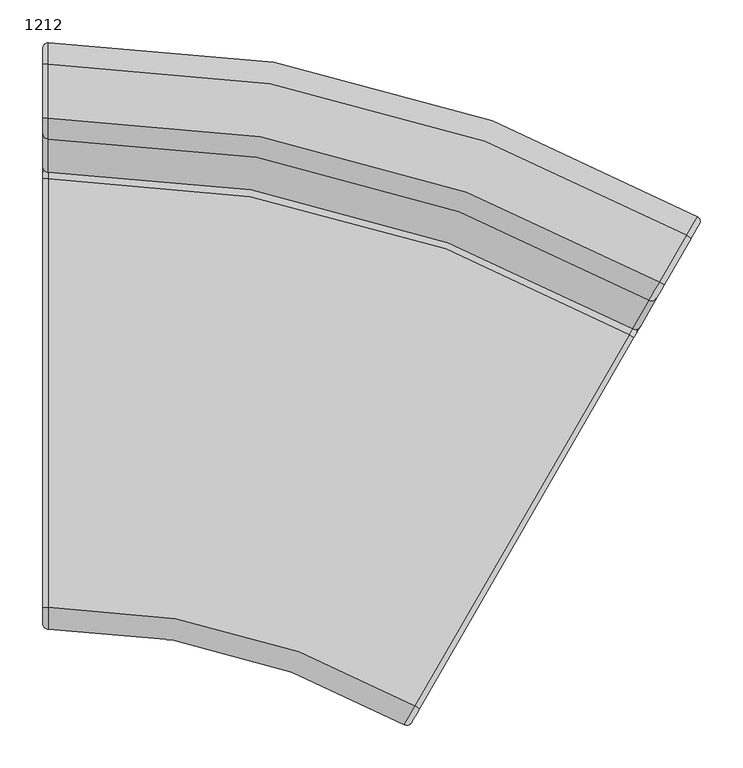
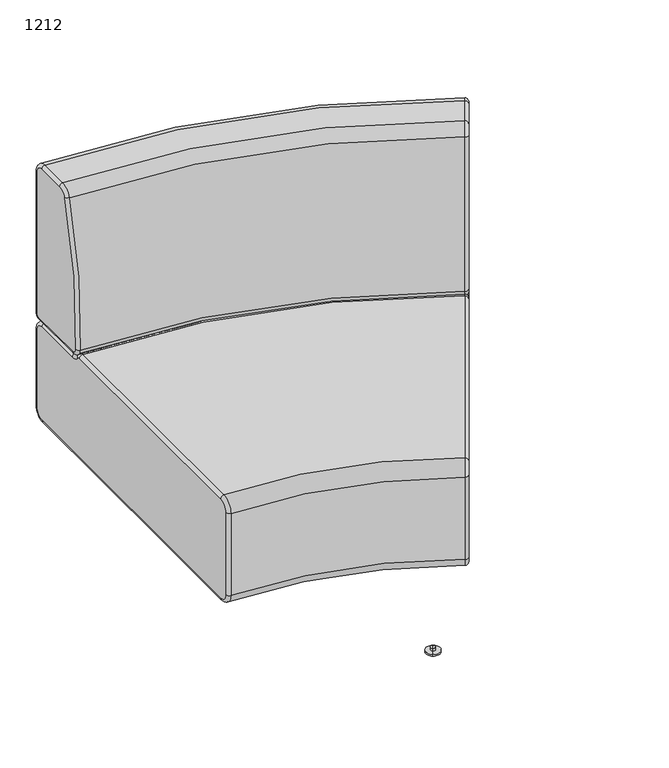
"""IFC4 building model written with IfcOpenShell, lengths in millimetres: furniture geometry, Laguna-Modular-Inside_Curve-ERG : 1212."""

from ifc_helpers import new_model, si_unit, point, frame, frame_2d, origin, place, context, project, spatial, polyline, circle_curve, ellipse_curve, trimmed, segment, composite_curve, outline, extrude, source, transform, mapped, element, save
from ifc_brep_helpers import plane_surface, cylinder_surface, revolved_surface, advanced_brep


def furniture_1212_c9eec584(model_context):
    return source(origin(), model_context, "Body", "SolidModel", [
        extrude(outline(composite_curve([segment(polyline([(-4404.7338738, 724.8009071), (-4456.4269302, 754.6459071)]), True, "CONTINUOUS"), segment(trimmed(circle_curve(frame_2d((-4453.8869302, 759.0453162)), 5.08), [point((-4456.4269302, 754.6459071))], [point((-4458.2863392, 761.5853162))], False, "CARTESIAN"), True, "CONTINUOUS"), segment(polyline([(-4458.2863392, 761.5853162), (-4438.6013392, 795.6807363)]), True, "CONTINUOUS"), segment(trimmed(circle_curve(frame_2d((-4434.2019302, 793.1407363)), 5.08), [point((-4438.6013392, 795.6807363))], [point((-4431.6619302, 797.5401454))], False, "CARTESIAN"), True, "CONTINUOUS"), segment(polyline([(-4431.6619302, 797.5401454), (-4379.9688738, 767.6951454)]), True, "CONTINUOUS"), segment(trimmed(circle_curve(frame_2d((-4382.5088738, 763.2957363)), 5.08), [point((-4379.9688738, 767.6951454))], [point((-4378.1094648, 760.7557363))], False, "CARTESIAN"), True, "CONTINUOUS"), segment(polyline([(-4378.1094648, 760.7557363), (-4397.7944648, 726.6603162)]), True, "CONTINUOUS"), segment(trimmed(circle_curve(frame_2d((-4402.1938738, 729.2003162)), 5.08), [point((-4397.7944648, 726.6603162))], [point((-4404.7338738, 724.8009071))], False, "CARTESIAN"), True, "CONTINUOUS")], self_intersect=False)), frame((0.0, 0.0, 200.66), z_axis=(0.0, 0.0, 1.0), x_axis=(1.0, 0.0, 0.0)), (0.0, 0.0, 1.0), 2.54),
        extrude(outline(composite_curve([segment(polyline([(-4133.7644856, 1194.1336548), (-4185.457542, 1223.9786548)]), True, "CONTINUOUS"), segment(trimmed(circle_curve(frame_2d((-4182.917542, 1228.3780638)), 5.08), [point((-4185.457542, 1223.9786548))], [point((-4187.316951, 1230.9180638))], False, "CARTESIAN"), True, "CONTINUOUS"), segment(polyline([(-4187.316951, 1230.9180638), (-4167.631951, 1265.013484)]), True, "CONTINUOUS"), segment(trimmed(circle_curve(frame_2d((-4163.232542, 1262.473484)), 5.08), [point((-4167.631951, 1265.013484))], [point((-4160.692542, 1266.872893))], False, "CARTESIAN"), True, "CONTINUOUS"), segment(polyline([(-4160.692542, 1266.872893), (-4108.9994856, 1237.027893)]), True, "CONTINUOUS"), segment(trimmed(circle_curve(frame_2d((-4111.5394856, 1232.628484)), 5.08), [point((-4108.9994856, 1237.027893))], [point((-4107.1400766, 1230.088484))], False, "CARTESIAN"), True, "CONTINUOUS"), segment(polyline([(-4107.1400766, 1230.088484), (-4126.8250766, 1195.9930638)]), True, "CONTINUOUS"), segment(trimmed(circle_curve(frame_2d((-4131.2244856, 1198.5330638)), 5.08), [point((-4126.8250766, 1195.9930638))], [point((-4133.7644856, 1194.1336548))], False, "CARTESIAN"), True, "CONTINUOUS")], self_intersect=False)), frame((0.0, 0.0, 200.66), z_axis=(0.0, 0.0, 1.0), x_axis=(1.0, 0.0, 0.0)), (0.0, 0.0, 1.0), 2.54),
        extrude(outline(composite_curve([segment(trimmed(circle_curve(frame_2d((-4739.5606322, 875.9836827)), 5.08), [point((-4739.5606322, 881.0636827))], [point((-4734.4806322, 875.9836827))], False, "CARTESIAN"), True, "CONTINUOUS"), segment(polyline([(-4734.4806322, 875.9836827), (-4734.4806322, 836.6136827)]), True, "CONTINUOUS"), segment(trimmed(circle_curve(frame_2d((-4739.5606322, 836.6136827)), 5.08), [point((-4734.4806322, 836.6136827))], [point((-4739.5606322, 831.5336827))], False, "CARTESIAN"), True, "CONTINUOUS"), segment(polyline([(-4739.5606322, 831.5336827), (-4799.2506322, 831.5336827)]), True, "CONTINUOUS"), segment(trimmed(circle_curve(frame_2d((-4799.2506322, 836.6136827)), 5.08), [point((-4799.2506322, 831.5336827))], [point((-4804.3306322, 836.6136827))], False, "CARTESIAN"), True, "CONTINUOUS"), segment(polyline([(-4804.3306322, 836.6136827), (-4804.3306322, 875.9836827)]), True, "CONTINUOUS"), segment(trimmed(circle_curve(frame_2d((-4799.2506322, 875.9836827)), 5.08), [point((-4804.3306322, 875.9836827))], [point((-4799.2506322, 881.0636827))], False, "CARTESIAN"), True, "CONTINUOUS"), segment(polyline([(-4799.2506322, 881.0636827), (-4739.5606322, 881.0636827)]), True, "CONTINUOUS")], self_intersect=False)), frame((0.0, 0.0, 200.66), z_axis=(0.0, 0.0, 1.0), x_axis=(1.0, 0.0, 0.0)), (0.0, 0.0, 1.0), 2.54),
        extrude(outline(composite_curve([segment(trimmed(circle_curve(frame_2d((-4739.5606322, 1416.9001303)), 5.08), [point((-4739.5606322, 1421.9801303))], [point((-4734.4806322, 1416.9001303))], False, "CARTESIAN"), True, "CONTINUOUS"), segment(polyline([(-4734.4806322, 1416.9001303), (-4734.4806322, 1377.5301303)]), True, "CONTINUOUS"), segment(trimmed(circle_curve(frame_2d((-4739.5606322, 1377.5301303)), 5.08), [point((-4734.4806322, 1377.5301303))], [point((-4739.5606322, 1372.4501303))], False, "CARTESIAN"), True, "CONTINUOUS"), segment(polyline([(-4739.5606322, 1372.4501303), (-4799.2506322, 1372.4501303)]), True, "CONTINUOUS"), segment(trimmed(circle_curve(frame_2d((-4799.2506322, 1377.5301303)), 5.08), [point((-4799.2506322, 1372.4501303))], [point((-4804.3306322, 1377.5301303))], False, "CARTESIAN"), True, "CONTINUOUS"), segment(polyline([(-4804.3306322, 1377.5301303), (-4804.3306322, 1416.9001303)]), True, "CONTINUOUS"), segment(trimmed(circle_curve(frame_2d((-4799.2506322, 1416.9001303)), 5.08), [point((-4804.3306322, 1416.9001303))], [point((-4799.2506322, 1421.9801303))], False, "CARTESIAN"), True, "CONTINUOUS"), segment(polyline([(-4799.2506322, 1421.9801303), (-4739.5606322, 1421.9801303)]), True, "CONTINUOUS")], self_intersect=False)), frame((0.0, 0.0, 200.66), z_axis=(0.0, 0.0, 1.0), x_axis=(1.0, 0.0, 0.0)), (0.0, 0.0, 1.0), 2.54),
        advanced_brep(
        [(-4832.9053779, 780.0986827, 228.6), (-4826.5553779, 773.7486827, 228.6), (-4826.5553779, 773.7486827, 406.4), (-4832.9053779, 780.0986827, 406.4), (-4832.9053779, 799.1486827, 425.45), (-4826.5553779, 799.1486827, 431.8), (-4826.5553779, 1301.2233489, 431.8), (-4832.9053779, 1301.2233489, 425.45), (-4826.5553779, 1312.6430873, 426.1507973), (-4832.9053779, 1307.5957246, 422.2976649), (-4826.5553779, 1326.8961182, 419.1), (-4832.9053779, 1326.8961182, 412.75), (-4826.5553779, 1435.2886296, 419.1), (-4832.9053779, 1435.2886296, 412.75), (-4826.5553779, 1460.6886296, 393.7), (-4832.9053779, 1454.3386296, 393.7), (-4826.5553779, 1460.6886296, 228.6), (-4832.9053779, 1454.3386296, 228.6), (-4826.5553779, 1435.2886296, 203.2), (-4832.9053779, 1435.2886296, 209.55), (-4826.5553779, 799.1486827, 203.2), (-4832.9053779, 799.1486827, 209.55), (-4145.731273, 1118.7970798, 431.8), (-4396.7686061, 683.9876643, 431.8), (-4140.0214037, 1128.6868634, 426.1507973), (-4132.8948883, 1141.0303502, 419.1), (-4078.6986404, 1234.9010052, 419.1), (-4065.9986326, 1256.8980639, 393.7), (-4065.9986326, 1256.8980639, 228.6000106), (-4078.6986326, 1234.9010186, 203.2), (-4396.7686061, 683.9876643, 203.2), (-4409.4686061, 661.990619, 406.4), (-4409.4686061, 661.990619, 228.6), (-4073.1993713, 1231.7260186, 209.55), (-4063.6743713, 1248.2238026, 228.6), (-4063.6743713, 1248.2238026, 393.7), (-4073.1993713, 1231.7260186, 412.75), (-4127.395627, 1137.8553502, 412.75), (-4137.0458238, 1121.140719, 422.2976649), (-4140.2320117, 1115.6220798, 425.45), (-4391.2693448, 680.8126643, 425.45), (-4400.7943448, 664.3148803, 406.4), (-4400.7943448, 664.3148803, 228.6), (-4391.2693448, 680.8126643, 209.55)],
        [
            (0, 1, circle_curve(frame((-4826.5553779, 780.0986827, 228.6), z_axis=(0.0, 0.0, 1.0), x_axis=(0.0, 1.0, 0.0)), 6.35)),
            (1, 2),
            (2, 3, circle_curve(frame((-4826.5553779, 780.0986827, 406.4), z_axis=(0.0, 0.0, -1.0), x_axis=(0.0, 1.0, 0.0)), 6.35)),
            (3, 0),
            (4, 5, circle_curve(frame((-4826.5553779, 799.1486827, 425.45), z_axis=(0.0, 1.0, 0.0), x_axis=(0.0, 0.0, -1.0)), 6.35)),
            (5, 6),
            (6, 7, circle_curve(frame((-4826.5553779, 1301.2233489, 425.45), z_axis=(0.0, -1.0, 0.0), x_axis=(0.0, 0.0, -1.0)), 6.35)),
            (7, 4),
            (6, 8, circle_curve(frame((-4826.5553779, 1301.2233489, 417.4330241), z_axis=(-1.0, 0.0, 0.0), x_axis=(0.0, 0.0, 1.0)), 14.3669759)),
            (8, 9, circle_curve(frame((-4826.5553779, 1307.5957246, 422.2976649), z_axis=(0.0, -0.6067924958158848, 0.7948602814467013), x_axis=(0.0, -0.7948602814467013, -0.6067924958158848)), 6.35)),
            (9, 7, circle_curve(frame((-4832.9053779, 1301.2233489, 417.4330241), z_axis=(1.0, 0.0, 0.0), x_axis=(0.0, 0.0, 1.0)), 8.0169759)),
            (8, 10, circle_curve(frame((-4826.5553779, 1326.8961182, 437.0314921), z_axis=(1.0, 0.0, 0.0), x_axis=(0.0, -0.7948602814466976, -0.6067924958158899)), 17.9314921)),
            (10, 11, circle_curve(frame((-4826.5553779, 1326.8961182, 412.75), z_axis=(0.0, -1.0, 0.0), x_axis=(0.0, 0.0, -1.0)), 6.35)),
            (11, 9, circle_curve(frame((-4832.9053779, 1326.8961182, 437.0314921), z_axis=(-1.0, 0.0, 0.0), x_axis=(0.0, -0.7948602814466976, -0.6067924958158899)), 24.2814921)),
            (10, 12),
            (12, 13, circle_curve(frame((-4826.5553779, 1435.2886296, 412.75), z_axis=(0.0, -1.0, 0.0), x_axis=(0.0, 0.0, -1.0)), 6.35)),
            (13, 11),
            (12, 14, circle_curve(frame((-4826.5553779, 1435.2886296, 393.7), z_axis=(-1.0, 0.0, 0.0), x_axis=(0.0, 0.0, 1.0)), 25.4)),
            (14, 15, circle_curve(frame((-4826.5553779, 1454.3386296, 393.7), z_axis=(0.0, 0.0, 1.0), x_axis=(0.0, -1.0, 0.0)), 6.35)),
            (15, 13, circle_curve(frame((-4832.9053779, 1435.2886296, 393.7), z_axis=(1.0, 0.0, 0.0), x_axis=(0.0, 0.0, 1.0)), 19.05)),
            (14, 16),
            (16, 17, circle_curve(frame((-4826.5553779, 1454.3386296, 228.6), z_axis=(0.0, 0.0, 1.0), x_axis=(0.0, -1.0, 0.0)), 6.35)),
            (17, 15),
            (16, 18, circle_curve(frame((-4826.5553779, 1435.2886296, 228.6), z_axis=(-1.0, 0.0, 0.0), x_axis=(0.0, 1.0, 0.0)), 25.4)),
            (18, 19, circle_curve(frame((-4826.5553779, 1435.2886296, 209.55), z_axis=(0.0, 1.0, 0.0), x_axis=(0.0, 0.0, 1.0)), 6.35)),
            (19, 17, circle_curve(frame((-4832.9053779, 1435.2886296, 228.6), z_axis=(1.0, 0.0, 0.0), x_axis=(0.0, 1.0, 0.0)), 19.05)),
            (18, 20),
            (20, 21, circle_curve(frame((-4826.5553779, 799.1486827, 209.55), z_axis=(0.0, 1.0, 0.0), x_axis=(0.0, 0.0, 1.0)), 6.35)),
            (21, 19),
            (2, 5, circle_curve(frame((-4826.5553779, 799.1486827, 406.4), z_axis=(-1.0, 0.0, 0.0), x_axis=(0.0, -1.0, 0.0)), 25.4)),
            (4, 3, circle_curve(frame((-4832.9053779, 799.1486827, 406.4), z_axis=(1.0, 0.0, 0.0), x_axis=(0.0, -1.0, 0.0)), 19.05)),
            (0, 21, circle_curve(frame((-4832.9053779, 799.1486827, 228.6), z_axis=(1.0, 0.0, 0.0), x_axis=(0.0, 0.0, -1.0)), 19.05)),
            (20, 1, circle_curve(frame((-4826.5553779, 799.1486827, 228.6), z_axis=(-1.0, 0.0, 0.0), x_axis=(0.0, 0.0, -1.0)), 25.4)),
            (22, 6, circle_curve(frame((-4826.5553779, -60.4248609, 431.8), z_axis=(0.0, 0.0, 1.0), x_axis=(0.0, 1.0, 0.0)), 1361.6482098)),
            (5, 23, circle_curve(frame((-4826.5553779, -60.4248609, 431.8), z_axis=(0.0, 0.0, -1.0), x_axis=(0.0, 1.0, 0.0)), 859.5735436)),
            (23, 22),
            (22, 24, circle_curve(frame((-4145.731273, 1118.7970798, 417.4330241), z_axis=(-0.866025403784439, 0.4999999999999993, 0.0), x_axis=(0.4999999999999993, 0.866025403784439, 0.0)), 14.3669759)),
            (24, 8, circle_curve(frame((-4826.5553779, -60.4248609, 426.1507973), z_axis=(0.0, 0.0, 1.0), x_axis=(0.0, 1.0, 0.0)), 1373.0679482)),
            (24, 25, circle_curve(frame((-4132.8948883, 1141.0303502, 437.0314921), z_axis=(0.866025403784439, -0.4999999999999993, 0.0), x_axis=(0.4999999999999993, 0.866025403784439, 0.0)), 17.9314921)),
            (25, 10, circle_curve(frame((-4826.5553779, -60.4248609, 419.1), z_axis=(0.0, 0.0, 1.0), x_axis=(0.0, 1.0, 0.0)), 1387.3209791)),
            (25, 26),
            (26, 12, circle_curve(frame((-4826.5553779, -60.4248609, 419.1), z_axis=(0.0, 0.0, 1.0), x_axis=(0.0, 1.0, 0.0)), 1495.7134905)),
            (26, 27, circle_curve(frame((-4078.6986326, 1234.9010186, 393.7), z_axis=(-0.866025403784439, 0.4999999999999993, 0.0), x_axis=(0.4999999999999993, 0.866025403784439, 0.0)), 25.4)),
            (27, 14, circle_curve(frame((-4826.5553779, -60.4248609, 393.7), z_axis=(0.0, 0.0, 1.0), x_axis=(0.0, 1.0, 0.0)), 1521.1134905)),
            (27, 28),
            (28, 16, circle_curve(frame((-4826.5553779, -60.4248609, 228.6), z_axis=(0.0, 0.0, 1.0), x_axis=(0.0, 1.0, 0.0)), 1521.1134905)),
            (28, 29, circle_curve(frame((-4078.6986326, 1234.9010186, 228.6), z_axis=(-0.866025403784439, 0.4999999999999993, 0.0), x_axis=(0.4999999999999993, 0.866025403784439, 0.0)), 25.4)),
            (29, 18, circle_curve(frame((-4826.5553779, -60.4248609, 203.2), z_axis=(0.0, 0.0, 1.0), x_axis=(0.0, 1.0, 0.0)), 1495.7134905)),
            (29, 30),
            (30, 20, circle_curve(frame((-4826.5553779, -60.4248609, 203.2), z_axis=(0.0, 0.0, 1.0), x_axis=(0.0, 1.0, 0.0)), 859.5735436)),
            (31, 2, circle_curve(frame((-4826.5553779, -60.4248609, 406.4), z_axis=(0.0, 0.0, 1.0), x_axis=(0.0, 1.0, 0.0)), 834.1735436)),
            (1, 32, circle_curve(frame((-4826.5553779, -60.4248609, 228.6), z_axis=(0.0, 0.0, -1.0), x_axis=(0.0, 1.0, 0.0)), 834.1735436)),
            (32, 31),
            (31, 23, circle_curve(frame((-4396.7686061, 683.9876643, 406.4), z_axis=(-0.8660254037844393, 0.49999999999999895, 0.0), x_axis=(0.49999999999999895, 0.8660254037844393, 0.0)), 25.4)),
            (30, 32, circle_curve(frame((-4396.7686061, 683.9876643, 228.6), z_axis=(-0.8660254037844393, 0.49999999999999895, 0.0), x_axis=(0.49999999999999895, 0.8660254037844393, 0.0)), 25.4)),
            (33, 29, circle_curve(frame((-4078.6986326, 1234.9010186, 209.55), z_axis=(0.4999999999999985, 0.8660254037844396, 0.0), x_axis=(0.0, 0.0, 1.0)), 6.35)),
            (28, 34, circle_curve(frame((-4069.1736326, 1251.3988026, 228.6), z_axis=(0.0, 0.0, -1.0), x_axis=(-0.49999999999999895, -0.8660254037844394, 0.0)), 6.35)),
            (34, 33, circle_curve(frame((-4073.1993713, 1231.7260186, 228.6), z_axis=(-0.8660254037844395, 0.49999999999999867, 0.0), x_axis=(0.0, 0.0, -1.0)), 19.05)),
            (27, 35, circle_curve(frame((-4069.1736326, 1251.3988026, 393.7), z_axis=(0.0, 0.0, -1.0), x_axis=(-0.49999999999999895, -0.8660254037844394, 0.0)), 6.35)),
            (35, 34),
            (26, 36, circle_curve(frame((-4078.6986326, 1234.9010186, 412.75), z_axis=(0.4999999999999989, 0.8660254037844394, 0.0), x_axis=(0.0, 0.0, -1.0)), 6.35)),
            (36, 35, circle_curve(frame((-4073.1993713, 1231.7260186, 393.7), z_axis=(-0.8660254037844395, 0.49999999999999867, 0.0), x_axis=(0.49999999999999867, 0.8660254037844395, 0.0)), 19.05)),
            (25, 37, circle_curve(frame((-4132.8948883, 1141.0303502, 412.75), z_axis=(0.4999999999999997, 0.8660254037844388, 0.0), x_axis=(0.0, 0.0, -1.0)), 6.35)),
            (37, 36),
            (24, 38, circle_curve(frame((-4142.5450851, 1124.315719, 422.2976649), z_axis=(0.30339624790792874, 0.5254977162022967, -0.7948602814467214), x_axis=(-0.3974301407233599, -0.68836919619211, -0.6067924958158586)), 6.35)),
            (38, 37, circle_curve(frame((-4127.395627, 1137.8553502, 437.0314921), z_axis=(0.8660254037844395, -0.49999999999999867, 0.0), x_axis=(0.0, 0.0, -1.0)), 24.2814921)),
            (22, 39, circle_curve(frame((-4145.731273, 1118.7970798, 425.45), z_axis=(0.4999999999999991, 0.8660254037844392, 0.0), x_axis=(0.0, 0.0, -1.0)), 6.35)),
            (39, 38, circle_curve(frame((-4140.2320117, 1115.6220798, 417.4330241), z_axis=(-0.8660254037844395, 0.49999999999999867, 0.0), x_axis=(0.3974301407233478, 0.6883691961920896, 0.6067924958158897)), 8.0169759)),
            (23, 40, circle_curve(frame((-4396.7686061, 683.9876643, 425.45), z_axis=(0.49999999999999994, 0.8660254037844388, 0.0), x_axis=(0.0, 0.0, -1.0)), 6.35)),
            (40, 39),
            (41, 31, circle_curve(frame((-4406.2936061, 667.4898803, 406.4), z_axis=(0.0, 0.0, -1.0), x_axis=(0.49999999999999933, 0.8660254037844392, 0.0)), 6.35)),
            (32, 42, circle_curve(frame((-4406.2936061, 667.4898803, 228.6), z_axis=(0.0, 0.0, 1.0), x_axis=(0.49999999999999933, 0.8660254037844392, 0.0)), 6.35)),
            (42, 41),
            (33, 43),
            (43, 30, circle_curve(frame((-4396.7686061, 683.9876643, 209.55), z_axis=(0.49999999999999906, 0.8660254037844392, 0.0), x_axis=(0.0, 0.0, 1.0)), 6.35)),
            (41, 40, circle_curve(frame((-4391.2693448, 680.8126643, 406.4), z_axis=(-0.866025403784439, 0.4999999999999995, 0.0), x_axis=(0.0, 0.0, 1.0)), 19.05)),
            (43, 42, circle_curve(frame((-4391.2693448, 680.8126643, 228.6), z_axis=(-0.866025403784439, 0.4999999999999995, 0.0), x_axis=(-0.4999999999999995, -0.866025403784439, 0.0)), 19.05)),
        ],
        [
            cylinder_surface(frame((-4826.5553779, 780.0986827, 228.6), z_axis=(0.0, 0.0, -1.0), x_axis=(0.0, 1.0, 0.0)), 6.35),
            cylinder_surface(frame((-4826.5553779, 799.1486827, 425.45), z_axis=(0.0, -1.0, 0.0), x_axis=(0.0, 0.0, -1.0)), 6.35),
            revolved_surface(trimmed(ellipse_curve(frame((-4826.5553779, 1301.2233489, 425.45), z_axis=(0.0, -1.0, 0.0), x_axis=(0.0, 0.0, -1.0)), 6.35, 6.35), [point((-4826.5553779, 1301.2233489, 431.8))], [point((-4832.9053779, 1301.2233489, 425.45))], True, "CARTESIAN"), (-4826.5553779, 1301.2233489, 417.4330241), (-1.0, 0.0, 0.0)),
            revolved_surface(trimmed(ellipse_curve(frame((-4826.5553779, 1307.5957246, 422.2976649), z_axis=(0.0, -0.6067924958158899, 0.7948602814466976), x_axis=(0.0, -0.7948602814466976, -0.6067924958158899)), 6.35, 6.35), [point((-4826.5553779, 1312.6430873, 426.1507973))], [point((-4832.9053779, 1307.5957246, 422.2976649))], True, "CARTESIAN"), (-4826.5553779, 1326.8961182, 437.0314921), (1.0, 0.0, 0.0)),
            cylinder_surface(frame((-4826.5553779, 1326.8961182, 412.75), z_axis=(0.0, -1.0, 0.0), x_axis=(0.0, 0.0, -1.0)), 6.35),
            revolved_surface(trimmed(ellipse_curve(frame((-4826.5553779, 1435.2886296, 412.75), z_axis=(0.0, -1.0, 0.0), x_axis=(0.0, 0.0, -1.0)), 6.35, 6.35), [point((-4826.5553779, 1435.2886296, 419.1))], [point((-4832.9053779, 1435.2886296, 412.75))], True, "CARTESIAN"), (-4826.5553779, 1435.2886296, 393.7), (-1.0, 0.0, 0.0)),
            cylinder_surface(frame((-4826.5553779, 1454.3386296, 393.7), z_axis=(0.0, 0.0, 1.0), x_axis=(0.0, -1.0, 0.0)), 6.35),
            revolved_surface(trimmed(ellipse_curve(frame((-4826.5553779, 1454.3386296, 228.6), z_axis=(0.0, 0.0, 1.0), x_axis=(0.0, -1.0, 0.0)), 6.35, 6.35), [point((-4826.5553779, 1460.6886296, 228.6))], [point((-4832.9053779, 1454.3386296, 228.6))], True, "CARTESIAN"), (-4826.5553779, 1435.2886296, 228.6), (-1.0, 0.0, 0.0)),
            cylinder_surface(frame((-4826.5553779, 1435.2886296, 209.55), z_axis=(0.0, 1.0, 0.0), x_axis=(0.0, 0.0, 1.0)), 6.35),
            revolved_surface(trimmed(ellipse_curve(frame((-4826.5553779, 780.0986827, 406.4), z_axis=(0.0, 0.0, -1.0), x_axis=(0.0, 1.0, 0.0)), 6.35, 6.35), [point((-4826.5553779, 773.7486827, 406.4))], [point((-4832.9053779, 780.0986827, 406.4))], True, "CARTESIAN"), (-4826.5553779, 799.1486827, 406.4), (-1.0, 0.0, 0.0)),
            revolved_surface(trimmed(ellipse_curve(frame((-4826.5553779, 799.1486827, 209.55), z_axis=(0.0, 1.0, 0.0), x_axis=(0.0, 0.0, 1.0)), 6.35, 6.35), [point((-4826.5553779, 799.1486827, 203.2))], [point((-4832.9053779, 799.1486827, 209.55))], True, "CARTESIAN"), (-4826.5553779, 799.1486827, 228.6), (-1.0, 0.0, 0.0)),
            plane_surface(frame((-4832.9053779, 1454.3386296, 228.6), z_axis=(-1.0, 0.0, 0.0), x_axis=(0.0, 0.0, -1.0))),
            plane_surface(frame((-4826.5553779, -60.4248609, 431.8), z_axis=(0.0, 0.0, 1.0), x_axis=(0.0, 1.0, 0.0))),
            revolved_surface(trimmed(ellipse_curve(frame((-4826.5553779, 1301.2233489, 417.4330241), z_axis=(-1.0, 0.0, 0.0), x_axis=(0.0, 1.0, 0.0)), 14.3669759, 14.3669759), [point((-4826.5553779, 1301.2233489, 431.8))], [point((-4826.5553779, 1312.6430873, 426.1507973))], True, "CARTESIAN"), (-4826.5553779, -60.4248609, 0.0), (0.0, 0.0, -1.0)),
            revolved_surface(trimmed(ellipse_curve(frame((-4826.5553779, 1326.8961182, 437.0314921), z_axis=(1.0, 0.0, 0.0), x_axis=(0.0, 1.0, 0.0)), 17.9314921, 17.9314921), [point((-4826.5553779, 1312.6430873, 426.1507973))], [point((-4826.5553779, 1326.8961182, 419.1))], True, "CARTESIAN"), (-4826.5553779, -60.4248609, 0.0), (0.0, 0.0, -1.0)),
            plane_surface(frame((-4826.5553779, -60.4248609, 419.1), z_axis=(0.0, 0.0, 1.0), x_axis=(0.0, 1.0, 0.0))),
            revolved_surface(trimmed(ellipse_curve(frame((-4826.5553779, 1435.2886296, 393.7), z_axis=(-1.0, 0.0, 0.0), x_axis=(0.0, 1.0, 0.0)), 25.4, 25.4), [point((-4826.5553779, 1435.2886296, 419.1))], [point((-4826.5553779, 1460.6886296, 393.7))], True, "CARTESIAN"), (-4826.5553779, -60.4248609, 0.0), (0.0, 0.0, -1.0)),
            cylinder_surface(frame((-4826.5553779, -60.4248609, 0.0), z_axis=(0.0, 0.0, -1.0), x_axis=(0.0, 1.0, 0.0)), 1521.1134905),
            revolved_surface(trimmed(ellipse_curve(frame((-4826.5553779, 1435.2886296, 228.6), z_axis=(-1.0, 0.0, 0.0), x_axis=(0.0, 1.0, 0.0)), 25.4, 25.4), [point((-4826.5553779, 1460.6886296, 228.6))], [point((-4826.5553779, 1435.2886296, 203.2))], True, "CARTESIAN"), (-4826.5553779, -60.4248609, 0.0), (0.0, 0.0, -1.0)),
            plane_surface(frame((-4826.5553779, -60.4248609, 203.2), z_axis=(0.0, 0.0, -1.0), x_axis=(0.0, 1.0, 0.0))),
            revolved_surface(polyline([(-4826.5553779, 773.7486827, 228.6), (-4826.5553779, 773.7486827, 406.4)]), (-4826.5553779, -60.4248609, 0.0), (0.0, 0.0, -1.0)),
            revolved_surface(trimmed(ellipse_curve(frame((-4826.5553779, 799.1486827, 406.4), z_axis=(-1.0, 0.0, 0.0), x_axis=(0.0, 1.0, 0.0)), 25.4, 25.4), [point((-4826.5553779, 773.7486827, 406.4))], [point((-4826.5553779, 799.1486827, 431.8))], True, "CARTESIAN"), (-4826.5553779, -60.4248609, 0.0), (0.0, 0.0, -1.0)),
            revolved_surface(trimmed(ellipse_curve(frame((-4826.5553779, 799.1486827, 228.6), z_axis=(-1.0, 0.0, 0.0), x_axis=(0.0, 1.0, 0.0)), 25.4, 25.4), [point((-4826.5553779, 799.1486827, 203.2))], [point((-4826.5553779, 773.7486827, 228.6))], True, "CARTESIAN"), (-4826.5553779, -60.4248609, 0.0), (0.0, 0.0, -1.0)),
            revolved_surface(trimmed(ellipse_curve(frame((-4078.6986326, 1234.9010186, 209.55), z_axis=(-0.4999999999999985, -0.8660254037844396, 0.0), x_axis=(0.0, 0.0, 1.0)), 6.35, 6.35), [point((-4078.6986326, 1234.9010186, 203.2))], [point((-4073.1993713, 1231.7260186, 209.55))], True, "CARTESIAN"), (-4078.6986326, 1234.9010186, 228.6), (0.8660254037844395, -0.49999999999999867, 0.0)),
            cylinder_surface(frame((-4069.1736326, 1251.3988026, 228.6), z_axis=(0.0, 0.0, -1.0), x_axis=(-0.49999999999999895, -0.8660254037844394, 0.0)), 6.35),
            revolved_surface(trimmed(ellipse_curve(frame((-4069.1736326, 1251.3988026, 393.7), z_axis=(0.0, 0.0, -1.0), x_axis=(-0.49999999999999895, -0.8660254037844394, 0.0)), 6.35, 6.35), [point((-4065.9986326, 1256.8980639, 393.7))], [point((-4063.6743713, 1248.2238026, 393.7))], True, "CARTESIAN"), (-4078.6986326, 1234.9010186, 393.7), (0.8660254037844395, -0.49999999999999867, 0.0)),
            cylinder_surface(frame((-4078.6986326, 1234.9010186, 412.75), z_axis=(0.4999999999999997, 0.8660254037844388, 0.0), x_axis=(0.0, 0.0, -1.0)), 6.35),
            revolved_surface(trimmed(ellipse_curve(frame((-4132.8948883, 1141.0303502, 412.75), z_axis=(0.49999999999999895, 0.8660254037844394, 0.0), x_axis=(0.0, 0.0, -1.0)), 6.35, 6.35), [point((-4132.8948883, 1141.0303502, 419.1))], [point((-4127.395627, 1137.8553502, 412.75))], True, "CARTESIAN"), (-4132.8948883, 1141.0303502, 437.0314921), (-0.8660254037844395, 0.49999999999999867, 0.0)),
            revolved_surface(trimmed(ellipse_curve(frame((-4142.5450851, 1124.315719, 422.2976649), z_axis=(0.3033962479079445, 0.5254977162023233, -0.7948602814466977), x_axis=(-0.39743014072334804, -0.6883691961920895, -0.6067924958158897)), 6.35, 6.35), [point((-4140.0214037, 1128.6868634, 426.1507973))], [point((-4137.0458238, 1121.140719, 422.2976649))], True, "CARTESIAN"), (-4145.731273, 1118.7970798, 417.4330241), (0.8660254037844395, -0.49999999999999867, 0.0)),
            cylinder_surface(frame((-4145.731273, 1118.7970798, 425.45), z_axis=(0.49999999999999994, 0.8660254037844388, 0.0), x_axis=(0.0, 0.0, -1.0)), 6.35),
            cylinder_surface(frame((-4406.2936061, 667.4898803, 406.4), z_axis=(0.0, 0.0, 1.0000000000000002), x_axis=(0.49999999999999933, 0.8660254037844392, 0.0)), 6.35),
            cylinder_surface(frame((-4396.7686061, 683.9876643, 209.55), z_axis=(-0.49999999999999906, -0.8660254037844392, 0.0), x_axis=(0.0, 0.0, 1.0)), 6.35),
            revolved_surface(trimmed(ellipse_curve(frame((-4396.7686061, 683.9876643, 425.45), z_axis=(0.49999999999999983, 0.8660254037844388, 0.0), x_axis=(0.0, 0.0, -1.0)), 6.35, 6.35), [point((-4396.7686061, 683.9876643, 431.8))], [point((-4391.2693448, 680.8126643, 425.45))], True, "CARTESIAN"), (-4396.7686061, 683.9876643, 406.4), (0.866025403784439, -0.4999999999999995, 0.0)),
            revolved_surface(trimmed(ellipse_curve(frame((-4406.2936061, 667.4898803, 228.6), z_axis=(0.0, 0.0, 1.0000000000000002), x_axis=(0.49999999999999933, 0.8660254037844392, 0.0)), 6.35, 6.35), [point((-4409.4686061, 661.990619, 228.6))], [point((-4400.7943448, 664.3148803, 228.6))], True, "CARTESIAN"), (-4396.7686061, 683.9876643, 228.6), (0.866025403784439, -0.4999999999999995, 0.0)),
            plane_surface(frame((-4391.2693448, 680.8126643, 425.45), z_axis=(0.8660254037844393, -0.49999999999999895, 0.0), x_axis=(-0.49999999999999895, -0.8660254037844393, 0.0))),
        ],
        [
            (0, [[1, 2, 3, 4]]),
            (1, [[5, 6, 7, 8]]),
            (2, [[-7, 9, 10, 11]]),
            (3, [[-10, 12, 13, 14]]),
            (4, [[-13, 15, 16, 17]]),
            (5, [[-16, 18, 19, 20]]),
            (6, [[-19, 21, 22, 23]]),
            (7, [[-22, 24, 25, 26]]),
            (8, [[-25, 27, 28, 29]]),
            (9, [[-3, 30, -5, 31]]),
            (10, [[-1, 32, -28, 33]]),
            (11, [[-4, -31, -8, -11, -14, -17, -20, -23, -26, -29, -32]]),
            (12, [[34, -6, 35, 36]]),
            (13, [[-34, 37, 38, -9]]),
            (14, [[-38, 39, 40, -12]]),
            (15, [[-40, 41, 42, -15]]),
            (16, [[-42, 43, 44, -18]]),
            (17, [[-44, 45, 46, -21]]),
            (18, [[-46, 47, 48, -24]]),
            (19, [[-48, 49, 50, -27]]),
            (20, [[51, -2, 52, 53]]),
            (21, [[-35, -30, -51, 54]]),
            (22, [[-50, 55, -52, -33]]),
            (23, [[56, -47, 57, 58]]),
            (24, [[-57, -45, 59, 60]]),
            (25, [[-59, -43, 61, 62]]),
            (26, [[-61, -41, 63, 64]]),
            (27, [[-63, -39, 65, 66]]),
            (28, [[-65, -37, 67, 68]]),
            (29, [[-67, -36, 69, 70]]),
            (30, [[71, -53, 72, 73]]),
            (31, [[-56, 74, 75, -49]]),
            (32, [[-69, -54, -71, 76]]),
            (33, [[-72, -55, -75, 77]]),
            (34, [[-58, -60, -62, -64, -66, -68, -70, -76, -73, -77, -74]]),
        ],
    ),
        advanced_brep(
        [(-4104.8351099, 1176.931312, 755.65), (-4110.3343712, 1180.106312, 762.0), (-4122.4220734, 1159.1697977, 744.3916508), (-4113.9008866, 1161.2289263, 742.4437381), (-4141.8438233, 1125.5303402, 435.9339217), (-4133.1755152, 1127.8442902, 436.3225994), (-4132.8948883, 1141.0303502, 419.1), (-4127.395627, 1137.8553502, 425.45), (-4072.3486326, 1245.8995413, 419.1), (-4066.8493713, 1242.7245413, 425.45), (-4065.9986326, 1256.8980639, 431.8), (-4063.6743713, 1248.2238026, 431.8), (-4065.9986326, 1256.8980639, 736.6), (-4063.6743713, 1248.2238026, 736.6), (-4078.6986326, 1234.9010186, 762.0), (-4073.1993713, 1231.7260186, 755.65), (-4826.5553779, 1372.0171524, 762.0), (-4826.5553779, 1347.841748, 744.3916508), (-4826.5553779, 1435.2886296, 762.0), (-4826.5553779, 1460.6886296, 736.6), (-4826.5553779, 1460.6886296, 431.8), (-4826.5553779, 1447.9886296, 419.1), (-4826.5553779, 1326.8961182, 419.1), (-4826.5553779, 1308.9982483, 435.9339217), (-4832.9053779, 1454.3386296, 431.8), (-4832.9053779, 1447.9886296, 425.45), (-4832.9053779, 1326.8961182, 425.45), (-4832.9053779, 1315.3363418, 436.3225994), (-4832.9053779, 1353.8855991, 742.4437381), (-4832.9053779, 1372.0171524, 755.65), (-4832.9053779, 1435.2886296, 755.65), (-4832.9053779, 1454.3386296, 736.6)],
        [
            (0, 1, circle_curve(frame((-4110.3343712, 1180.106312, 755.65), z_axis=(-0.5000000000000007, -0.8660254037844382, 0.0), x_axis=(0.0, 0.0, -1.0)), 6.35)),
            (1, 2, circle_curve(frame((-4110.3343712, 1180.106312, 736.6), z_axis=(0.8660254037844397, -0.49999999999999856, 0.0), x_axis=(0.0, 0.0, 1.0)), 25.4)),
            (2, 3, circle_curve(frame((-4119.4001479, 1164.4039263, 742.4437381), z_axis=(0.15337895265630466, 0.265660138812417, 0.9517875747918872), x_axis=(0.47589378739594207, 0.8242722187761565, -0.30675790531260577)), 6.35)),
            (3, 0, circle_curve(frame((-4104.8351099, 1176.931312, 736.6), z_axis=(-0.8660254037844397, 0.49999999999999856, 0.0), x_axis=(0.0, 0.0, 1.0)), 19.05)),
            (2, 4, circle_curve(frame((-3723.4919648, 1850.1370144, 487.2440105), z_axis=(0.8660254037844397, -0.49999999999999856, 0.0), x_axis=(-0.47589378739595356, -0.8242722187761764, 0.306757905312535)), 838.2755126)),
            (4, 5, circle_curve(frame((-4138.6747765, 1131.0192902, 436.3225994), z_axis=(-0.030604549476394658, -0.05300863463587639, 0.9981249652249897), x_axis=(0.49906248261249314, 0.8644015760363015, 0.06120909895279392)), 6.35)),
            (5, 3, circle_curve(frame((-3717.9927035, 1846.9620144, 487.2440105), z_axis=(-0.8660254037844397, 0.49999999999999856, 0.0), x_axis=(-0.47589378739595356, -0.8242722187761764, 0.306757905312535)), 831.9255126)),
            (4, 6, circle_curve(frame((-4132.8948883, 1141.0303502, 437.0314921), z_axis=(0.8660254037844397, -0.49999999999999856, 0.0), x_axis=(-0.4990624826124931, -0.864401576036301, -0.06120909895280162)), 17.9314921)),
            (6, 7, circle_curve(frame((-4132.8948883, 1141.0303502, 425.45), z_axis=(-0.49999999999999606, -0.8660254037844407, 0.0), x_axis=(0.0, 0.0, 0.9999999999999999)), 6.35)),
            (7, 5, circle_curve(frame((-4127.395627, 1137.8553502, 437.0314921), z_axis=(-0.8660254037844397, 0.49999999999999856, 0.0), x_axis=(-0.4990624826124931, -0.864401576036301, -0.06120909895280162)), 11.5814921)),
            (6, 8),
            (8, 9, circle_curve(frame((-4072.3486326, 1245.8995413, 425.45), z_axis=(-0.49999999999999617, -0.8660254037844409, 0.0), x_axis=(0.0, 0.0, 1.0)), 6.35)),
            (9, 7),
            (8, 10, circle_curve(frame((-4072.3486326, 1245.8995413, 431.8), z_axis=(0.8660254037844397, -0.49999999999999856, 0.0), x_axis=(0.0, 0.0, -1.0)), 12.7)),
            (10, 11, circle_curve(frame((-4069.1736326, 1251.3988026, 431.8), z_axis=(0.0, 0.0, -1.0), x_axis=(-0.49999999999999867, -0.8660254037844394, 0.0)), 6.35)),
            (11, 9, circle_curve(frame((-4066.8493713, 1242.7245413, 431.8), z_axis=(-0.8660254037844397, 0.49999999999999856, 0.0), x_axis=(0.0, 0.0, -1.0)), 6.35)),
            (10, 12),
            (12, 13, circle_curve(frame((-4069.1736326, 1251.3988026, 736.6), z_axis=(0.0, 0.0, -1.0), x_axis=(-0.49999999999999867, -0.8660254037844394, 0.0)), 6.35)),
            (13, 11),
            (12, 14, circle_curve(frame((-4078.6986326, 1234.9010186, 736.6), z_axis=(0.8660254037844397, -0.49999999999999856, 0.0), x_axis=(0.49999999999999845, 0.8660254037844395, 0.0)), 25.4)),
            (14, 15, circle_curve(frame((-4078.6986326, 1234.9010186, 755.65), z_axis=(0.5000000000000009, 0.8660254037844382, 0.0), x_axis=(0.0, 0.0, -0.9999999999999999)), 6.35)),
            (15, 13, circle_curve(frame((-4073.1993713, 1231.7260186, 736.6), z_axis=(-0.8660254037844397, 0.49999999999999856, 0.0), x_axis=(0.49999999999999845, 0.8660254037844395, 0.0)), 19.05)),
            (0, 15),
            (14, 1),
            (1, 16, circle_curve(frame((-4826.5553779, -60.4248609, 762.0), z_axis=(0.0, 0.0, 1.0), x_axis=(0.0, 1.0, 0.0)), 1432.4420133)),
            (16, 17, circle_curve(frame((-4826.5553779, 1372.0171524, 736.6), z_axis=(1.0, 0.0, 0.0), x_axis=(0.0, 1.0, 0.0)), 25.4)),
            (17, 2, circle_curve(frame((-4826.5553779, -60.4248609, 744.3916508), z_axis=(0.0, 0.0, -1.0), x_axis=(0.0, 1.0, 0.0)), 1408.2666089)),
            (14, 18, circle_curve(frame((-4826.5553779, -60.4248609, 762.0), z_axis=(0.0, 0.0, 1.0), x_axis=(0.0, 1.0, 0.0)), 1495.7134905)),
            (18, 16),
            (12, 19, circle_curve(frame((-4826.5553779, -60.4248609, 736.6), z_axis=(0.0, 0.0, 1.0), x_axis=(0.0, 1.0, 0.0)), 1521.1134905)),
            (19, 18, circle_curve(frame((-4826.5553779, 1435.2886296, 736.6), z_axis=(1.0, 0.0, 0.0), x_axis=(0.0, 1.0, 0.0)), 25.4)),
            (10, 20, circle_curve(frame((-4826.5553779, -60.4248609, 431.8), z_axis=(0.0, 0.0, 1.0), x_axis=(0.0, 1.0, 0.0)), 1521.1134905)),
            (20, 19),
            (8, 21, circle_curve(frame((-4826.5553779, -60.4248609, 419.1), z_axis=(0.0, 0.0, 1.0), x_axis=(0.0, 1.0, 0.0)), 1508.4134905)),
            (21, 20, circle_curve(frame((-4826.5553779, 1447.9886296, 431.8), z_axis=(1.0, 0.0, 0.0), x_axis=(0.0, 1.0, 0.0)), 12.7)),
            (6, 22, circle_curve(frame((-4826.5553779, -60.4248609, 419.1), z_axis=(0.0, 0.0, 1.0), x_axis=(0.0, 1.0, 0.0)), 1387.3209791)),
            (22, 21),
            (4, 23, circle_curve(frame((-4826.5553779, -60.4248609, 435.9339217), z_axis=(0.0, 0.0, 1.0), x_axis=(0.0, 1.0, 0.0)), 1369.4231092)),
            (23, 22, circle_curve(frame((-4826.5553779, 1326.8961182, 437.0314921), z_axis=(1.0, 0.0, 0.0), x_axis=(0.0, 1.0, 0.0)), 17.9314921)),
            (17, 23, circle_curve(frame((-4826.5553779, 2145.7019651, 487.2440105), z_axis=(1.0, 0.0, 0.0), x_axis=(0.0, 1.0, 0.0)), 838.2755126)),
            (24, 20, circle_curve(frame((-4826.5553779, 1454.3386296, 431.8), z_axis=(0.0, 0.0, -1.0), x_axis=(-1.0, 0.0, 0.0)), 6.35)),
            (21, 25, circle_curve(frame((-4826.5553779, 1447.9886296, 425.45), z_axis=(0.0, 1.0, 0.0), x_axis=(-1.0, 0.0, 0.0)), 6.35)),
            (25, 24, circle_curve(frame((-4832.9053779, 1447.9886296, 431.8), z_axis=(1.0, 0.0, 0.0), x_axis=(0.0, 1.0, 0.0)), 6.35)),
            (22, 26, circle_curve(frame((-4826.5553779, 1326.8961182, 425.45), z_axis=(0.0, 1.0, 0.0), x_axis=(-1.0, 0.0, 0.0)), 6.35)),
            (26, 25),
            (23, 27, circle_curve(frame((-4826.5553779, 1315.3363418, 436.3225994), z_axis=(0.0, 0.06120909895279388, -0.9981249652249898), x_axis=(-1.0, 0.0, 0.0)), 6.35)),
            (27, 26, circle_curve(frame((-4832.9053779, 1326.8961182, 437.0314921), z_axis=(1.0, 0.0, 0.0), x_axis=(0.0, 0.0, -1.0)), 11.5814921)),
            (17, 28, circle_curve(frame((-4826.5553779, 1353.8855991, 742.4437381), z_axis=(0.0, -0.306757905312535, -0.9517875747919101), x_axis=(-1.0, 0.0, 0.0)), 6.35)),
            (28, 27, circle_curve(frame((-4832.9053779, 2145.7019651, 487.2440105), z_axis=(1.0, 0.0, 0.0), x_axis=(0.0, -0.9981249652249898, -0.06120909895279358)), 831.9255126)),
            (16, 29, circle_curve(frame((-4826.5553779, 1372.0171524, 755.65), z_axis=(0.0, -1.0, 0.0), x_axis=(-1.0, 0.0, 0.0)), 6.35)),
            (29, 28, circle_curve(frame((-4832.9053779, 1372.0171524, 736.6), z_axis=(1.0, 0.0, 0.0), x_axis=(0.0, -0.95178757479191, 0.3067579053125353)), 19.05)),
            (18, 30, circle_curve(frame((-4826.5553779, 1435.2886296, 755.65), z_axis=(0.0, -1.0, 0.0), x_axis=(-1.0, 0.0, 0.0)), 6.35)),
            (30, 29),
            (19, 31, circle_curve(frame((-4826.5553779, 1454.3386296, 736.6), z_axis=(0.0, 0.0, 1.0), x_axis=(-1.0, 0.0, 0.0)), 6.35)),
            (31, 30, circle_curve(frame((-4832.9053779, 1435.2886296, 736.6), z_axis=(1.0, 0.0, 0.0), x_axis=(0.0, 0.0, 1.0)), 19.05)),
            (24, 31),
        ],
        [
            revolved_surface(trimmed(ellipse_curve(frame((-4110.3343712, 1180.106312, 755.65), z_axis=(0.5000000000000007, 0.8660254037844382, 0.0), x_axis=(0.0, 0.0, -1.0)), 6.35, 6.35), [point((-4110.3343712, 1180.106312, 762.0))], [point((-4104.8351099, 1176.931312, 755.65))], True, "CARTESIAN"), (-4110.3343712, 1180.106312, 736.6), (0.8660254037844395, -0.49999999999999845, 0.0)),
            revolved_surface(trimmed(ellipse_curve(frame((-4119.4001479, 1164.4039263, 742.4437381), z_axis=(0.1533789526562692, 0.2656601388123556, 0.9517875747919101), x_axis=(0.4758937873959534, 0.8242722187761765, -0.30675790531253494)), 6.35, 6.35), [point((-4122.4220734, 1159.1697977, 744.3916508))], [point((-4113.9008866, 1161.2289263, 742.4437381))], True, "CARTESIAN"), (-3723.4919648, 1850.1370144, 487.2440105), (0.8660254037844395, -0.49999999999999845, 0.0)),
            revolved_surface(trimmed(ellipse_curve(frame((-4138.6747765, 1131.0192902, 436.3225994), z_axis=(-0.030604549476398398, -0.05300863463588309, 0.9981249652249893), x_axis=(0.4990624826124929, 0.8644015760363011, 0.06120909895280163)), 6.35, 6.35), [point((-4141.8438233, 1125.5303402, 435.9339217))], [point((-4133.1755152, 1127.8442902, 436.3225994))], True, "CARTESIAN"), (-4132.8948883, 1141.0303502, 437.0314921), (0.8660254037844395, -0.49999999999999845, 0.0)),
            cylinder_surface(frame((-4132.8948883, 1141.0303502, 425.45), z_axis=(-0.49999999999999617, -0.8660254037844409, 0.0), x_axis=(0.0, 0.0, 1.0)), 6.35),
            revolved_surface(trimmed(ellipse_curve(frame((-4072.3486326, 1245.8995413, 425.45), z_axis=(-0.49999999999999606, -0.8660254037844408, 0.0), x_axis=(0.0, 0.0, 1.0)), 6.35, 6.35), [point((-4072.3486326, 1245.8995413, 419.1))], [point((-4066.8493713, 1242.7245413, 425.45))], True, "CARTESIAN"), (-4072.3486326, 1245.8995413, 431.8), (0.8660254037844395, -0.49999999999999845, 0.0)),
            cylinder_surface(frame((-4069.1736326, 1251.3988026, 431.8), z_axis=(0.0, 0.0, -1.0), x_axis=(-0.49999999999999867, -0.8660254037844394, 0.0)), 6.35),
            revolved_surface(trimmed(ellipse_curve(frame((-4069.1736326, 1251.3988026, 736.6), z_axis=(0.0, 0.0, -0.9999999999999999), x_axis=(-0.4999999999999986, -0.8660254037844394, 0.0)), 6.35, 6.35), [point((-4065.9986326, 1256.8980639, 736.6))], [point((-4063.6743713, 1248.2238026, 736.6))], True, "CARTESIAN"), (-4078.6986326, 1234.9010186, 736.6), (0.8660254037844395, -0.49999999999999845, 0.0)),
            cylinder_surface(frame((-4078.6986326, 1234.9010186, 755.65), z_axis=(0.49999999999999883, 0.8660254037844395, 0.0), x_axis=(0.0, 0.0, -1.0)), 6.35),
            plane_surface(frame((-4063.6743713, 1248.2238026, 736.6), z_axis=(0.866025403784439, -0.49999999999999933, 0.0), x_axis=(0.0, 0.0, 1.0))),
            revolved_surface(trimmed(ellipse_curve(frame((-4826.5553779, 1372.0171524, 736.6), z_axis=(-1.0, 0.0, 0.0), x_axis=(0.0, 1.0, 0.0)), 25.4, 25.4), [point((-4826.5553779, 1347.841748, 744.3916508))], [point((-4826.5553779, 1372.0171524, 762.0))], True, "CARTESIAN"), (-4826.5553779, -60.4248609, 0.0), (0.0, 0.0, -1.0)),
            plane_surface(frame((-4826.5553779, -60.4248609, 762.0), z_axis=(0.0, 0.0, 1.0), x_axis=(0.0, 1.0, 0.0))),
            revolved_surface(trimmed(ellipse_curve(frame((-4826.5553779, 1435.2886296, 736.6), z_axis=(-1.0, 0.0, 0.0), x_axis=(0.0, 1.0, 0.0)), 25.4, 25.4), [point((-4826.5553779, 1435.2886296, 762.0))], [point((-4826.5553779, 1460.6886296, 736.6))], True, "CARTESIAN"), (-4826.5553779, -60.4248609, 0.0), (0.0, 0.0, -1.0)),
            cylinder_surface(frame((-4826.5553779, -60.4248609, 0.0), z_axis=(0.0, 0.0, -1.0), x_axis=(0.0, 1.0, 0.0)), 1521.1134905),
            revolved_surface(trimmed(ellipse_curve(frame((-4826.5553779, 1447.9886296, 431.8), z_axis=(-1.0, 0.0, 0.0), x_axis=(0.0, 1.0, 0.0)), 12.7, 12.7), [point((-4826.5553779, 1460.6886296, 431.8))], [point((-4826.5553779, 1447.9886296, 419.1))], True, "CARTESIAN"), (-4826.5553779, -60.4248609, 0.0), (0.0, 0.0, -1.0)),
            plane_surface(frame((-4826.5553779, -60.4248609, 419.1), z_axis=(0.0, 0.0, -1.0), x_axis=(0.0, 1.0, 0.0))),
            revolved_surface(trimmed(ellipse_curve(frame((-4826.5553779, 1326.8961182, 437.0314921), z_axis=(-1.0, 0.0, 0.0), x_axis=(0.0, 1.0, 0.0)), 17.9314921, 17.9314921), [point((-4826.5553779, 1326.8961182, 419.1))], [point((-4826.5553779, 1308.9982483, 435.9339217))], True, "CARTESIAN"), (-4826.5553779, -60.4248609, 0.0), (0.0, 0.0, -1.0)),
            revolved_surface(trimmed(ellipse_curve(frame((-4826.5553779, 2145.7019651, 487.2440105), z_axis=(-1.0, 0.0, 0.0), x_axis=(0.0, 1.0, 0.0)), 838.2755126, 838.2755126), [point((-4826.5553779, 1308.9982483, 435.9339217))], [point((-4826.5553779, 1347.841748, 744.3916508))], True, "CARTESIAN"), (-4826.5553779, -60.4248609, 0.0), (0.0, 0.0, -1.0)),
            revolved_surface(trimmed(ellipse_curve(frame((-4826.5553779, 1454.3386296, 431.8), z_axis=(0.0, 0.0, 1.0), x_axis=(-1.0, 0.0, 0.0)), 6.35, 6.35), [point((-4826.5553779, 1460.6886296, 431.8))], [point((-4832.9053779, 1454.3386296, 431.8))], True, "CARTESIAN"), (-4826.5553779, 1447.9886296, 431.8), (-1.0, 0.0, 0.0)),
            cylinder_surface(frame((-4826.5553779, 1447.9886296, 425.45), z_axis=(0.0, 1.0, 0.0), x_axis=(-1.0, 0.0, 0.0)), 6.35),
            revolved_surface(trimmed(ellipse_curve(frame((-4826.5553779, 1326.8961182, 425.45), z_axis=(0.0, 1.0, 0.0), x_axis=(-1.0, 0.0, 0.0)), 6.35, 6.35), [point((-4826.5553779, 1326.8961182, 419.1))], [point((-4832.9053779, 1326.8961182, 425.45))], True, "CARTESIAN"), (-4826.5553779, 1326.8961182, 437.0314921), (-1.0, 0.0, 0.0)),
            revolved_surface(trimmed(ellipse_curve(frame((-4826.5553779, 1315.3363418, 436.3225994), z_axis=(0.0, 0.061209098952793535, -0.9981249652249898), x_axis=(-1.0, 0.0, 0.0)), 6.35, 6.35), [point((-4826.5553779, 1308.9982483, 435.9339217))], [point((-4832.9053779, 1315.3363418, 436.3225994))], True, "CARTESIAN"), (-4826.5553779, 2145.7019651, 487.2440105), (-1.0, 0.0, 0.0)),
            revolved_surface(trimmed(ellipse_curve(frame((-4826.5553779, 1353.8855991, 742.4437381), z_axis=(0.0, -0.3067579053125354, -0.95178757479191), x_axis=(-1.0, 0.0, 0.0)), 6.35, 6.35), [point((-4826.5553779, 1347.841748, 744.3916508))], [point((-4832.9053779, 1353.8855991, 742.4437381))], True, "CARTESIAN"), (-4826.5553779, 1372.0171524, 736.6), (-1.0, 0.0, 0.0)),
            cylinder_surface(frame((-4826.5553779, 1372.0171524, 755.65), z_axis=(0.0, -1.0, 0.0), x_axis=(-1.0, 0.0, 0.0)), 6.35),
            revolved_surface(trimmed(ellipse_curve(frame((-4826.5553779, 1435.2886296, 755.65), z_axis=(0.0, -1.0, 0.0), x_axis=(-1.0, 0.0, 0.0)), 6.35, 6.35), [point((-4826.5553779, 1435.2886296, 762.0))], [point((-4832.9053779, 1435.2886296, 755.65))], True, "CARTESIAN"), (-4826.5553779, 1435.2886296, 736.6), (-1.0, 0.0, 0.0)),
            cylinder_surface(frame((-4826.5553779, 1454.3386296, 736.6), z_axis=(0.0, 0.0, 1.0), x_axis=(-1.0, 0.0, 0.0)), 6.35),
            plane_surface(frame((-4832.9053779, 1372.0171524, 755.65), z_axis=(-1.0, 0.0, 0.0), x_axis=(0.0, 1.0, 0.0))),
        ],
        [
            (0, [[1, 2, 3, 4]]),
            (1, [[-3, 5, 6, 7]]),
            (2, [[-6, 8, 9, 10]]),
            (3, [[-9, 11, 12, 13]]),
            (4, [[-12, 14, 15, 16]]),
            (5, [[-15, 17, 18, 19]]),
            (6, [[-18, 20, 21, 22]]),
            (7, [[-1, 23, -21, 24]]),
            (8, [[-4, -7, -10, -13, -16, -19, -22, -23]]),
            (9, [[25, 26, 27, -2]]),
            (10, [[-25, -24, 28, 29]]),
            (11, [[-28, -20, 30, 31]]),
            (12, [[-30, -17, 32, 33]]),
            (13, [[-32, -14, 34, 35]]),
            (14, [[-34, -11, 36, 37]]),
            (15, [[-36, -8, 38, 39]]),
            (16, [[-27, 40, -38, -5]]),
            (17, [[41, -35, 42, 43]]),
            (18, [[-42, -37, 44, 45]]),
            (19, [[-44, -39, 46, 47]]),
            (20, [[-46, -40, 48, 49]]),
            (21, [[-48, -26, 50, 51]]),
            (22, [[-50, -29, 52, 53]]),
            (23, [[-52, -31, 54, 55]]),
            (24, [[-41, 56, -54, -33]]),
            (25, [[-43, -45, -47, -49, -51, -53, -55, -56]]),
        ],
    ),
        advanced_brep(
        [(-4445.9829031, 713.0454927, 3.9615026), (-4431.6355813, 737.8957829, 3.9615026), (-4436.545603, 729.391376, 3.9615026), (-4441.0728815, 721.5498996, 3.9615026), (-4445.9829031, 713.0454927, 0.0), (-4431.6355813, 737.8957829, 0.0), (-4438.8092422, 725.4706378, 0.0), (-4441.0728815, 721.5498996, 10.16), (-4436.545603, 729.391376, 10.16), (-4438.8092422, 725.4706378, 10.16)],
        [
            (0, 1, circle_curve(frame((-4438.8092422, 725.4706378, 3.9615026), z_axis=(0.0, 0.0, 1.0), x_axis=(0.4999999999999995, 0.866025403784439, 0.0)), 14.3473217)),
            (1, 2),
            (2, 3, circle_curve(frame((-4438.8092422, 725.4706378, 3.9615026), z_axis=(0.0, 0.0, -1.0), x_axis=(0.4999999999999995, 0.866025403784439, 0.0)), 4.5272785)),
            (3, 0),
            (1, 0, circle_curve(frame((-4438.8092422, 725.4706378, 3.9615026), z_axis=(0.0, 0.0, 1.0), x_axis=(0.4999999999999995, 0.866025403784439, 0.0)), 14.3473217)),
            (3, 2, circle_curve(frame((-4438.8092422, 725.4706378, 3.9615026), z_axis=(0.0, 0.0, -1.0), x_axis=(0.4999999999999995, 0.866025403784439, 0.0)), 4.5272785)),
            (4, 5, circle_curve(frame((-4438.8092422, 725.4706378, 0.0), z_axis=(0.0, 0.0, 1.0), x_axis=(0.4999999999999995, 0.866025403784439, 0.0)), 14.3473217)),
            (5, 1),
            (0, 4),
            (5, 4, circle_curve(frame((-4438.8092422, 725.4706378, 0.0), z_axis=(0.0, 0.0, 1.0), x_axis=(0.4999999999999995, 0.866025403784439, 0.0)), 14.3473217)),
            (6, 5),
            (4, 6),
            (7, 8, circle_curve(frame((-4438.8092422, 725.4706378, 10.16), z_axis=(0.0, 0.0, 1.0), x_axis=(0.4999999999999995, 0.866025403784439, 0.0)), 4.5272785)),
            (8, 9),
            (9, 7),
            (8, 7, circle_curve(frame((-4438.8092422, 725.4706378, 10.16), z_axis=(0.0, 0.0, 1.0), x_axis=(0.4999999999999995, 0.866025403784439, 0.0)), 4.5272785)),
            (2, 8),
            (7, 3),
        ],
        [
            plane_surface(frame((-4438.8092422, 725.4706378, 3.9615026), z_axis=(0.0, 0.0, 1.0000000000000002), x_axis=(0.4999999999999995, 0.866025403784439, 0.0))),
            cylinder_surface(frame((-4438.8092422, 725.4706378, 3.9615026), z_axis=(0.0, 0.0, -1.0), x_axis=(0.4999999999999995, 0.866025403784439, 0.0)), 14.3473217),
            plane_surface(frame((-4438.8092422, 725.4706378, 0.0), z_axis=(0.0, 0.0, -1.0000000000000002), x_axis=(0.4999999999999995, 0.866025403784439, 0.0))),
            plane_surface(frame((-4438.8092422, 725.4706378, 10.16), z_axis=(0.0, 0.0, 1.0000000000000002), x_axis=(0.4999999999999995, 0.866025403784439, 0.0))),
            cylinder_surface(frame((-4438.8092422, 725.4706378, 3.9615026), z_axis=(0.0, 0.0, -1.0), x_axis=(0.4999999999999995, 0.866025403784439, 0.0)), 4.5272785),
        ],
        [
            (0, [[1, 2, 3, 4]]),
            (0, [[5, -4, 6, -2]]),
            (1, [[7, 8, -1, 9]]),
            (1, [[10, -9, -5, -8]]),
            (2, [[11, -7, 12]]),
            (2, [[-12, -10, -11]]),
            (3, [[13, 14, 15]]),
            (3, [[16, -15, -14]]),
            (4, [[-3, 17, -13, 18]]),
            (4, [[-6, -18, -16, -17]]),
        ],
    ),
        advanced_brep(
        [(-4133.7991542, 1253.763607, 3.9615026), (-4119.4518325, 1278.6138972, 3.9615026), (-4124.3618541, 1270.1094903, 3.9615026), (-4128.8891326, 1262.2680139, 3.9615026), (-4133.7991542, 1253.763607, 0.0), (-4119.4518325, 1278.6138972, 0.0), (-4126.6254934, 1266.1887521, 0.0), (-4128.8891326, 1262.2680139, 10.16), (-4124.3618541, 1270.1094903, 10.16), (-4126.6254934, 1266.1887521, 10.16)],
        [
            (0, 1, circle_curve(frame((-4126.6254934, 1266.1887521, 3.9615026), z_axis=(0.0, 0.0, 1.0), x_axis=(0.4999999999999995, 0.866025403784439, 0.0)), 14.3473217)),
            (1, 2),
            (2, 3, circle_curve(frame((-4126.6254934, 1266.1887521, 3.9615026), z_axis=(0.0, 0.0, -1.0), x_axis=(0.4999999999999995, 0.866025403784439, 0.0)), 4.5272785)),
            (3, 0),
            (1, 0, circle_curve(frame((-4126.6254934, 1266.1887521, 3.9615026), z_axis=(0.0, 0.0, 1.0), x_axis=(0.4999999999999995, 0.866025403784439, 0.0)), 14.3473217)),
            (3, 2, circle_curve(frame((-4126.6254934, 1266.1887521, 3.9615026), z_axis=(0.0, 0.0, -1.0), x_axis=(0.4999999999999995, 0.866025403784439, 0.0)), 4.5272785)),
            (4, 5, circle_curve(frame((-4126.6254934, 1266.1887521, 0.0), z_axis=(0.0, 0.0, 1.0), x_axis=(0.4999999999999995, 0.866025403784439, 0.0)), 14.3473217)),
            (5, 1),
            (0, 4),
            (5, 4, circle_curve(frame((-4126.6254934, 1266.1887521, 0.0), z_axis=(0.0, 0.0, 1.0), x_axis=(0.4999999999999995, 0.866025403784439, 0.0)), 14.3473217)),
            (6, 5),
            (4, 6),
            (7, 8, circle_curve(frame((-4126.6254934, 1266.1887521, 10.16), z_axis=(0.0, 0.0, 1.0), x_axis=(0.4999999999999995, 0.866025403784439, 0.0)), 4.5272785)),
            (8, 9),
            (9, 7),
            (8, 7, circle_curve(frame((-4126.6254934, 1266.1887521, 10.16), z_axis=(0.0, 0.0, 1.0), x_axis=(0.4999999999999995, 0.866025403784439, 0.0)), 4.5272785)),
            (2, 8),
            (7, 3),
        ],
        [
            plane_surface(frame((-4126.6254934, 1266.1887521, 3.9615026), z_axis=(0.0, 0.0, 1.0000000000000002), x_axis=(0.4999999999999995, 0.866025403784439, 0.0))),
            cylinder_surface(frame((-4126.6254934, 1266.1887521, 3.9615026), z_axis=(0.0, 0.0, -1.0), x_axis=(0.4999999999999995, 0.866025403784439, 0.0)), 14.3473217),
            plane_surface(frame((-4126.6254934, 1266.1887521, 0.0), z_axis=(0.0, 0.0, -1.0000000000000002), x_axis=(0.4999999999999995, 0.866025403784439, 0.0))),
            plane_surface(frame((-4126.6254934, 1266.1887521, 10.16), z_axis=(0.0, 0.0, 1.0000000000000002), x_axis=(0.4999999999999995, 0.866025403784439, 0.0))),
            cylinder_surface(frame((-4126.6254934, 1266.1887521, 3.9615026), z_axis=(0.0, 0.0, -1.0), x_axis=(0.4999999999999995, 0.866025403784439, 0.0)), 4.5272785),
        ],
        [
            (0, [[1, 2, 3, 4]]),
            (0, [[5, -4, 6, -2]]),
            (1, [[7, 8, -1, 9]]),
            (1, [[10, -9, -5, -8]]),
            (2, [[11, -7, 12]]),
            (2, [[-12, -10, -11]]),
            (3, [[13, 14, 15]]),
            (3, [[16, -15, -14]]),
            (4, [[-3, 17, -13, 18]]),
            (4, [[-6, -18, -16, -17]]),
        ],
    ),
    ])


if __name__ == "__main__":
    model = new_model("IFC4")
    model_context = context("Model", 3, world=origin())
    ifc_project = project(units=[si_unit("LENGTHUNIT", "METRE", prefix="MILLI")], contexts=[model_context])
    site = spatial("IfcSite", under=ifc_project)
    building = spatial("IfcBuilding", under=site)
    placement = place(None, origin())
    furniture_1212_shape = furniture_1212_c9eec584(model_context)
    element("IfcFurniture", 1, ObjectType="Laguna-Modular-Inside_Curve-ERG : 1212", at=placement, inside=building, context=model_context, shape_type="MappedRepresentation", body=[
        mapped(furniture_1212_shape, transform((0.0, 0.0, 0.0), x_axis=(1.0, 0.0, 0.0), y_axis=(0.0, 1.0, 0.0), z_axis=(0.0, 0.0, 1.0))),
    ])
    save(model, "model.ifc")
